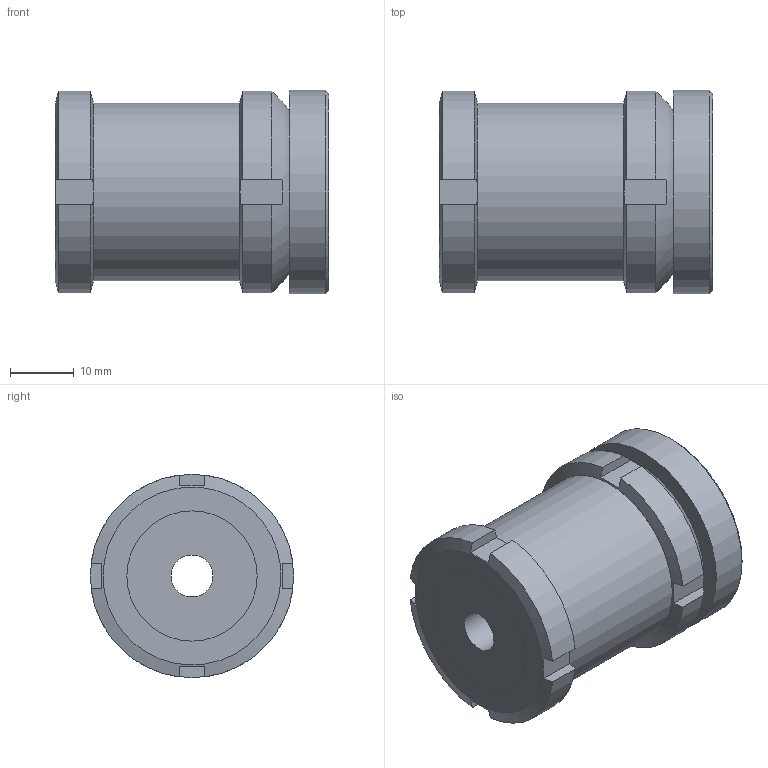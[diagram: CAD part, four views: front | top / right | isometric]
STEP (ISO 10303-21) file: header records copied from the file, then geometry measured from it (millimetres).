
FILE_DESCRIPTION( ( 'STEP AP203' ), '1' );
FILE_NAME( 'C:/Temp/Ganter_Step_05_03_2020/data/3_2/gn350_2/gn_350_2_ni/Stainless Steel-Levelling set GN 350.2-32-6,6-43-NI (0-0).stp', '2020-03-13T05:28:05', ( 'License CC BY-ND 4.0' ), ( 'CADENAS' ), ' ', 'PARTsolutions', ' ' );
FILE_SCHEMA( ( 'CONFIG_CONTROL_DESIGN' ) );
Length unit declared in the file: millimetre
Products named in the file (4): Stainless Steel-Levelling set GN 350.2-32-6,6-43-NI (0-0); _Levelling set GN 350.2-32-6,6-43-ST-G; _Levelling set GN 350.2-32-6,6-43-ST-K; _Levelling set GN 350.2-32-6,6-43-ST-P(0)
Assembly tree (3 placements, depth 2):
  Stainless Steel-Levelling set GN 350.2-32-6,6-43-NI (0-0)
    _Levelling set GN 350.2-32-6,6-43-ST-G
    _Levelling set GN 350.2-32-6,6-43-ST-K
    _Levelling set GN 350.2-32-6,6-43-ST-P(0)
Bounding box: 43 x 32 x 32 mm (x, y, z)
Volume: 27487.1 mm3; surface area: 12685.4 mm2
Topology: 3 solids, 3 shells, 61 faces, 147 edges, 98 vertices
Faces by surface type: plane 36, cylinder 19, cone 4, sphere 2
Full cylindrical faces by diameter (mm): 6.6 x1, 15 x1, 16.473 x1, 17.5 x1, 18.917 x1, 20 x2, 20.5 x2, 28 x1, 32 x1
Entity records: 1905 total; most frequent: CARTESIAN_POINT 459, DIRECTION 272, ORIENTED_EDGE 246, EDGE_CURVE 123, AXIS2_PLACEMENT_3D 120, VERTEX_POINT 91, EDGE_LOOP 90, FACE_OUTER_BOUND 74
